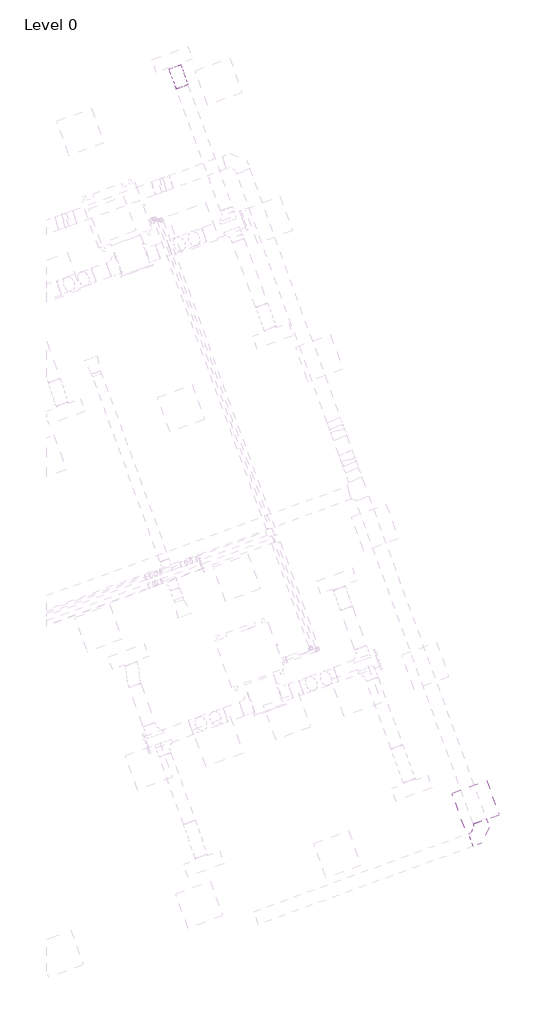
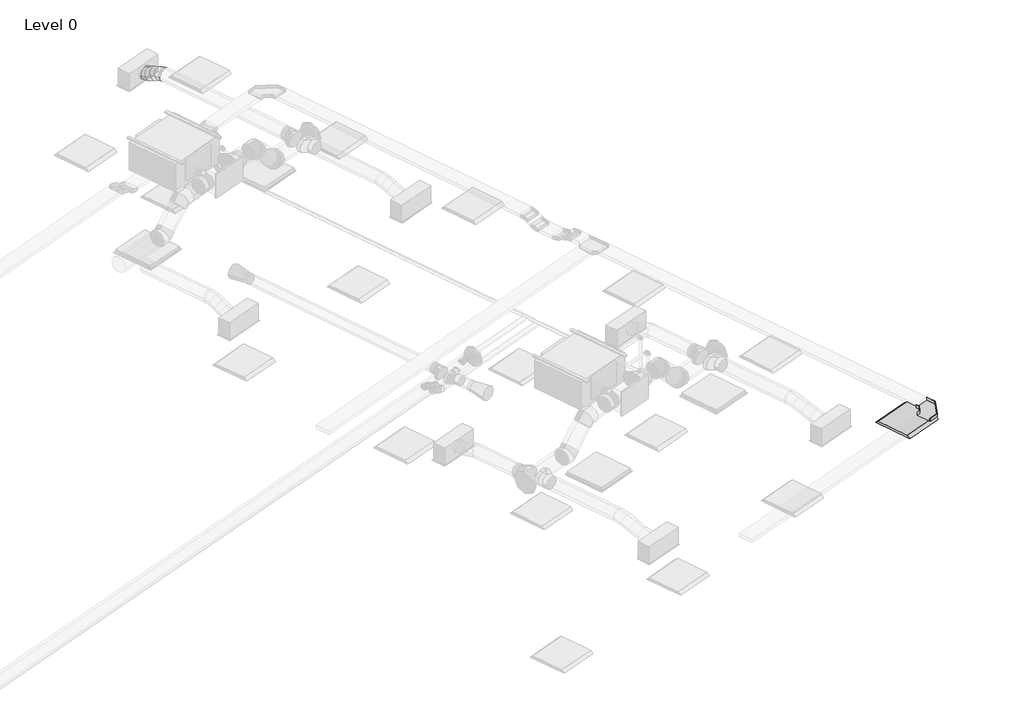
# One storey, part 34 of 34: 1 cable carrier fitting, 1 duct segment, 1 light fixture.
"""IFC4 building model written with IfcOpenShell, lengths in millimetres."""

from ifc_helpers import new_model, si_unit, frame, origin, place, context, project, spatial, circle_curve, ellipse_curve, transform, mapped, element, save
from ifc_brep_helpers import plane_surface, cylinder_surface, advanced_brep
from components import cable_tray_horizontal_bend_standard_fd552271, light_fixture_1c7c1157

model = new_model("IFC4")

# Units and contexts
model_context = context("Model", 3, world=origin())
ifc_project = project(units=[si_unit("LENGTHUNIT", "METRE", prefix="MILLI")], contexts=[model_context])

# Site, building, storey
site = spatial("IfcSite", under=ifc_project)
building = spatial("IfcBuilding", under=site)
storey = spatial("IfcBuildingStorey", under=building, Name="Level 0", Elevation=0.0)

# Cable carrier fitting
placement = place(None, origin())
cable_tray_horizontal_bend_standard_shape = cable_tray_horizontal_bend_standard_fd552271(model_context)
element("IfcCableCarrierFitting", 1, ObjectType="Cable Tray Horizontal Bend : Standard", at=placement, inside=storey, context=model_context, shape_type="MappedRepresentation", body=[
    mapped(cable_tray_horizontal_bend_standard_shape, transform((64419.4120815, 12194.2633634, 3248.9627355), x_axis=(0.9396926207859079, 0.34202014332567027, 0.0), y_axis=(-0.34202014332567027, 0.9396926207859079, 0.0), z_axis=(0.0, 0.0, 1.0))),
])

# Duct segment
element("IfcDuctSegment", 2, ObjectType="Flex - Round", at=placement, inside=storey, context=model_context, shape_type="AdvancedBrep", body=[
    advanced_brep(
    [(59391.7751792, 24361.973208, 3072.2088531), (59485.7444412, 24396.1752224, 2972.2088531), (59579.7137033, 24430.3772367, 3072.2088531), (59485.7444412, 24396.1752224, 3172.2088531), (59384.8599769, 24380.9725701, 3072.2088531), (59483.3165362, 24402.8458367, 2972.2088531), (59572.7985011, 24449.3765987, 3072.2088531), (59474.3419418, 24427.5033322, 3172.2088531), (59272.272719, 24690.3035188, 2954.4), (59366.2419811, 24724.5055332, 3054.4), (59460.2112432, 24758.7075475, 2954.4), (59366.2419811, 24724.5055332, 2854.4), (59361.2798724, 24445.7583747, 3053.8012198), (59467.0749017, 24447.4693607, 2959.5299419), (59549.2183966, 24514.1624034, 3053.8012198), (59443.4233673, 24512.4514173, 3148.0724978), (59332.0239491, 24526.1383634, 3013.3044266), (59440.6282832, 24520.1308477, 2922.9218599), (59519.9624732, 24594.5423921, 3013.3044266), (59411.3581391, 24600.5499078, 3103.6869932), (59302.7680258, 24606.5183522, 2972.8076333), (59408.563055, 24608.2293382, 2878.5363553), (59490.7065499, 24674.9223809, 2972.8076333), (59384.9115206, 24673.2113948, 3067.0789113), (59279.1879213, 24671.3041568, 2954.4), (59377.6444806, 24693.1774234, 2854.4), (59467.1264454, 24739.7081855, 2954.4), (59368.6698861, 24717.8349189, 3054.4)],
    [
        (0, 1, circle_curve(frame((59485.7444412, 24396.1752224, 3072.2088531), z_axis=(0.34202014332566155, -0.9396926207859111, 0.0), x_axis=(-0.9396926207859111, -0.34202014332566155, 0.0)), 100.0)),
        (1, 2, circle_curve(frame((59485.7444412, 24396.1752224, 3072.2088531), z_axis=(0.34202014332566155, -0.9396926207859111, 0.0), x_axis=(-0.9396926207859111, -0.34202014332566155, 0.0)), 100.0)),
        (2, 3, circle_curve(frame((59485.7444412, 24396.1752224, 3072.2088531), z_axis=(0.34202014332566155, -0.9396926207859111, 0.0), x_axis=(-0.9396926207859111, -0.34202014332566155, 0.0)), 100.0)),
        (3, 0, circle_curve(frame((59485.7444412, 24396.1752224, 3072.2088531), z_axis=(0.34202014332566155, -0.9396926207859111, 0.0), x_axis=(-0.9396926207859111, -0.34202014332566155, 0.0)), 100.0)),
        (0, 4),
        (4, 5, ellipse_curve(frame((59478.829239, 24415.1745844, 3072.2088531), z_axis=(0.33911394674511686, -0.931707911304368, 0.13008496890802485), x_axis=(0.04449167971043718, -0.12223988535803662, -0.9915028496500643)), 100.8569971, 100.0)),
        (5, 1),
        (5, 6, ellipse_curve(frame((59478.829239, 24415.1745844, 3072.2088531), z_axis=(0.33911394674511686, -0.931707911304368, 0.13008496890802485), x_axis=(0.04449167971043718, -0.12223988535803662, -0.9915028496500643)), 100.8569971, 100.0)),
        (6, 2),
        (6, 7, ellipse_curve(frame((59478.829239, 24415.1745844, 3072.2088531), z_axis=(0.33911394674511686, -0.931707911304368, 0.13008496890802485), x_axis=(0.04449167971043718, -0.12223988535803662, -0.9915028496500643)), 100.8569971, 100.0)),
        (7, 3),
        (7, 4, ellipse_curve(frame((59478.829239, 24415.1745844, 3072.2088531), z_axis=(0.33911394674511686, -0.931707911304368, 0.13008496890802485), x_axis=(0.04449167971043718, -0.12223988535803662, -0.9915028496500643)), 100.8569971, 100.0)),
        (8, 9, circle_curve(frame((59366.2419811, 24724.5055332, 2954.4), z_axis=(-0.342020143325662, 0.9396926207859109, 0.0), x_axis=(-0.9396926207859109, -0.342020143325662, 0.0)), 100.0)),
        (9, 10, circle_curve(frame((59366.2419811, 24724.5055332, 2954.4), z_axis=(-0.342020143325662, 0.9396926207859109, 0.0), x_axis=(-0.9396926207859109, -0.342020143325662, 0.0)), 100.0)),
        (10, 11, circle_curve(frame((59366.2419811, 24724.5055332, 2954.4), z_axis=(-0.342020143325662, 0.9396926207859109, 0.0), x_axis=(-0.9396926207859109, -0.342020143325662, 0.0)), 100.0)),
        (11, 8, circle_curve(frame((59366.2419811, 24724.5055332, 2954.4), z_axis=(-0.342020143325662, 0.9396926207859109, 0.0), x_axis=(-0.9396926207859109, -0.342020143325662, 0.0)), 100.0)),
        (4, 12),
        (12, 13, ellipse_curve(frame((59455.2491345, 24479.960389, 3053.8012198), z_axis=(0.32110349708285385, -0.8822246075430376, 0.3443432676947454), x_axis=(0.11777233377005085, -0.3235768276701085, -0.9388438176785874)), 100.4120986, 100.0)),
        (13, 5),
        (13, 14, ellipse_curve(frame((59455.2491345, 24479.960389, 3053.8012198), z_axis=(0.32110349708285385, -0.8822246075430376, 0.3443432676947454), x_axis=(0.11777233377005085, -0.3235768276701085, -0.9388438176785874)), 100.4120986, 100.0)),
        (14, 6),
        (14, 15, ellipse_curve(frame((59455.2491345, 24479.960389, 3053.8012198), z_axis=(0.32110349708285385, -0.8822246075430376, 0.3443432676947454), x_axis=(0.11777233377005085, -0.3235768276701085, -0.9388438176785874)), 100.4120986, 100.0)),
        (15, 7),
        (15, 12, ellipse_curve(frame((59455.2491345, 24479.960389, 3053.8012198), z_axis=(0.32110349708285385, -0.8822246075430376, 0.3443432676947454), x_axis=(0.11777233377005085, -0.3235768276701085, -0.9388438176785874)), 100.4120986, 100.0)),
        (12, 16),
        (16, 17, circle_curve(frame((59425.9932112, 24560.3403778, 3013.3044266), z_axis=(0.3091265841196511, -0.8493183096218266, 0.4279008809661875), x_axis=(-0.9396926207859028, -0.3420201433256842, 0.0)), 100.0)),
        (17, 13),
        (17, 18, circle_curve(frame((59425.9932112, 24560.3403778, 3013.3044266), z_axis=(0.3091265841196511, -0.8493183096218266, 0.4279008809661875), x_axis=(-0.9396926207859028, -0.3420201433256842, 0.0)), 100.0)),
        (18, 14),
        (18, 19, circle_curve(frame((59425.9932112, 24560.3403778, 3013.3044266), z_axis=(0.3091265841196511, -0.8493183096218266, 0.4279008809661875), x_axis=(-0.9396926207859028, -0.3420201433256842, 0.0)), 100.0)),
        (19, 15),
        (19, 16, circle_curve(frame((59425.9932112, 24560.3403778, 3013.3044266), z_axis=(0.3091265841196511, -0.8493183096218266, 0.4279008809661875), x_axis=(-0.9396926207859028, -0.3420201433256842, 0.0)), 100.0)),
        (16, 20),
        (20, 21, ellipse_curve(frame((59396.7372878, 24640.7203665, 2972.8076333), z_axis=(0.32110349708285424, -0.8822246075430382, 0.34434326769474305), x_axis=(-0.11777233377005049, 0.3235768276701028, 0.9388438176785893)), 100.4120986, 100.0)),
        (21, 17),
        (21, 22, ellipse_curve(frame((59396.7372878, 24640.7203665, 2972.8076333), z_axis=(0.32110349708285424, -0.8822246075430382, 0.34434326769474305), x_axis=(-0.11777233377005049, 0.3235768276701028, 0.9388438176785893)), 100.4120986, 100.0)),
        (22, 18),
        (22, 23, ellipse_curve(frame((59396.7372878, 24640.7203665, 2972.8076333), z_axis=(0.32110349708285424, -0.8822246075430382, 0.34434326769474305), x_axis=(-0.11777233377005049, 0.3235768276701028, 0.9388438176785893)), 100.4120986, 100.0)),
        (23, 19),
        (23, 20, ellipse_curve(frame((59396.7372878, 24640.7203665, 2972.8076333), z_axis=(0.32110349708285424, -0.8822246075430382, 0.34434326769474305), x_axis=(-0.11777233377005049, 0.3235768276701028, 0.9388438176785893)), 100.4120986, 100.0)),
        (20, 24),
        (24, 25, ellipse_curve(frame((59373.1571834, 24705.5061711, 2954.4), z_axis=(0.3391139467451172, -0.9317079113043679, 0.13008496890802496), x_axis=(-0.044491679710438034, 0.12223988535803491, 0.9915028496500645)), 100.8569971, 100.0)),
        (25, 21),
        (25, 26, ellipse_curve(frame((59373.1571834, 24705.5061711, 2954.4), z_axis=(0.3391139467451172, -0.9317079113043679, 0.13008496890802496), x_axis=(-0.044491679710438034, 0.12223988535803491, 0.9915028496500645)), 100.8569971, 100.0)),
        (26, 22),
        (26, 27, ellipse_curve(frame((59373.1571834, 24705.5061711, 2954.4), z_axis=(0.3391139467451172, -0.9317079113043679, 0.13008496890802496), x_axis=(-0.044491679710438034, 0.12223988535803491, 0.9915028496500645)), 100.8569971, 100.0)),
        (27, 23),
        (27, 24, ellipse_curve(frame((59373.1571834, 24705.5061711, 2954.4), z_axis=(0.3391139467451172, -0.9317079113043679, 0.13008496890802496), x_axis=(-0.044491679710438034, 0.12223988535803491, 0.9915028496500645)), 100.8569971, 100.0)),
        (24, 8),
        (11, 25),
        (10, 26),
        (9, 27),
    ],
    [
        plane_surface(frame((59485.7444412, 24396.1752224, 3172.2088531), z_axis=(0.3420201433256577, -0.9396926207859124, 0.0), x_axis=(0.9396926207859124, 0.3420201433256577, 0.0))),
        cylinder_surface(frame((59485.7444412, 24396.1752224, 3072.2088531), z_axis=(0.34202014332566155, -0.9396926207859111, 0.0), x_axis=(-0.9396926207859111, -0.34202014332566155, 0.0)), 100.0),
        plane_surface(frame((59366.2419811, 24724.5055332, 3054.4), z_axis=(-0.3420201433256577, 0.9396926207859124, 0.0), x_axis=(0.9396926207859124, 0.3420201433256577, 0.0))),
        cylinder_surface(frame((59478.829239, 24415.1745844, 3072.2088531), z_axis=(0.3304447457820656, -0.90788947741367, 0.25795923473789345), x_axis=(-0.939692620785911, -0.34202014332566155, 0.0)), 100.0),
        cylinder_surface(frame((59455.2491345, 24479.960389, 3053.8012198), z_axis=(0.3091265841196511, -0.8493183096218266, 0.4279008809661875), x_axis=(-0.9396926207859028, -0.3420201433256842, 0.0)), 100.0),
        cylinder_surface(frame((59425.9932112, 24560.3403778, 3013.3044266), z_axis=(0.3091265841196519, -0.8493183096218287, 0.42790088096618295), x_axis=(-0.9396926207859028, -0.34202014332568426, 0.0)), 100.0),
        cylinder_surface(frame((59396.7372878, 24640.7203665, 2972.8076333), z_axis=(0.3304447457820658, -0.9078894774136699, 0.2579592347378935), x_axis=(-0.939692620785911, -0.3420201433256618, 0.0)), 100.0),
        cylinder_surface(frame((59373.1571834, 24705.5061711, 2954.4), z_axis=(0.342020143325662, -0.9396926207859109, 0.0), x_axis=(-0.9396926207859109, -0.342020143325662, 0.0)), 100.0),
    ],
    [
        (0, [[1, 2, 3, 4]]),
        (1, [[-1, 5, 6, 7]]),
        (1, [[-2, -7, 8, 9]]),
        (1, [[-3, -9, 10, 11]]),
        (1, [[-4, -11, 12, -5]]),
        (2, [[13, 14, 15, 16]]),
        (3, [[-6, 17, 18, 19]]),
        (3, [[-8, -19, 20, 21]]),
        (3, [[-10, -21, 22, 23]]),
        (3, [[-12, -23, 24, -17]]),
        (4, [[-18, 25, 26, 27]]),
        (4, [[-20, -27, 28, 29]]),
        (4, [[-22, -29, 30, 31]]),
        (4, [[-24, -31, 32, -25]]),
        (5, [[-26, 33, 34, 35]]),
        (5, [[-28, -35, 36, 37]]),
        (5, [[-30, -37, 38, 39]]),
        (5, [[-32, -39, 40, -33]]),
        (6, [[-34, 41, 42, 43]]),
        (6, [[-36, -43, 44, 45]]),
        (6, [[-38, -45, 46, 47]]),
        (6, [[-40, -47, 48, -41]]),
        (7, [[-42, 49, -16, 50]]),
        (7, [[-44, -50, -15, 51]]),
        (7, [[-46, -51, -14, 52]]),
        (7, [[-48, -52, -13, -49]]),
    ],
),
])

# Light fixture
light_fixture_shape = light_fixture_1c7c1157(model_context)
element("IfcLightFixture", 3, ObjectType="ELEKTRA Plain Recessed Lighting Fixture : 24\" x 24\" - 230", at=placement, inside=storey, context=model_context, shape_type="MappedRepresentation", body=[
    mapped(light_fixture_shape, transform((64093.1824859, 12310.7748374, 2800.0), x_axis=(0.9396926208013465, 0.3420201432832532, 0.0), y_axis=(0.3420201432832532, -0.9396926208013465, 0.0), z_axis=(0.0, 0.0, -1.0))),
])

save(model, "model.ifc")
